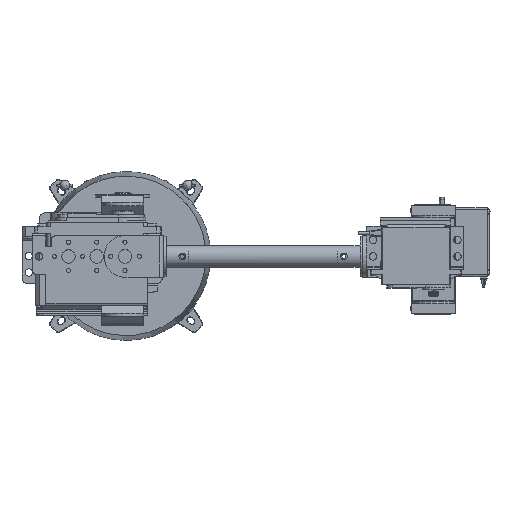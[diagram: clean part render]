
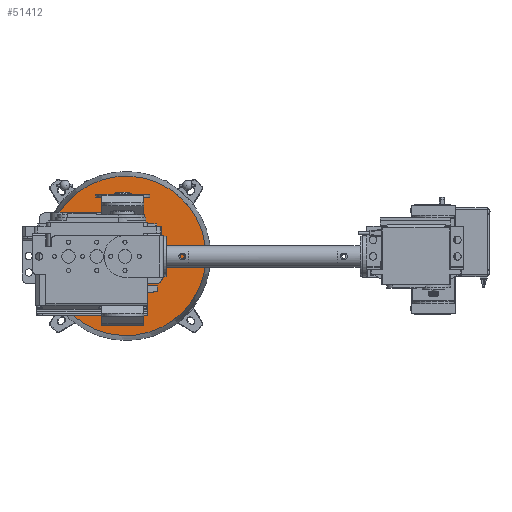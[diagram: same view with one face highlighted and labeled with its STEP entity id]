
A CAD part, top view. The second image highlights one B-rep face of the part: STEP entity #51412.
In plain terms, the highlighted planar face has unit normal (0, 0, 1) as drawn and (0, -1, 0) by its records, which use the part's own axes.
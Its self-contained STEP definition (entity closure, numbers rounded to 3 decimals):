
#8347=PLANE('',#54464);
#11911=ORIENTED_EDGE('',*,*,#22601,.T.);
#11912=ORIENTED_EDGE('',*,*,#22602,.T.);
#11913=ORIENTED_EDGE('',*,*,#22603,.T.);
#11914=ORIENTED_EDGE('',*,*,#22604,.T.);
#11915=ORIENTED_EDGE('',*,*,#22605,.T.);
#11916=ORIENTED_EDGE('',*,*,#22606,.T.);
#11917=ORIENTED_EDGE('',*,*,#22607,.T.);
#11918=ORIENTED_EDGE('',*,*,#22608,.T.);
#11919=ORIENTED_EDGE('',*,*,#22609,.T.);
#11920=ORIENTED_EDGE('',*,*,#22610,.T.);
#11921=ORIENTED_EDGE('',*,*,#22611,.T.);
#11922=ORIENTED_EDGE('',*,*,#22612,.T.);
#11923=ORIENTED_EDGE('',*,*,#22582,.T.);
#11924=ORIENTED_EDGE('',*,*,#22600,.F.);
#22582=EDGE_CURVE('',#28051,#28051,#31681,.T.);
#22600=EDGE_CURVE('',#28069,#28069,#31699,.T.);
#22601=EDGE_CURVE('',#28070,#28070,#31700,.T.);
#22602=EDGE_CURVE('',#28071,#28071,#31701,.T.);
#22603=EDGE_CURVE('',#28072,#28072,#31702,.T.);
#22604=EDGE_CURVE('',#28073,#28073,#31703,.T.);
#22605=EDGE_CURVE('',#28074,#28074,#31704,.T.);
#22606=EDGE_CURVE('',#28075,#28075,#31705,.T.);
#22607=EDGE_CURVE('',#28076,#28076,#31706,.T.);
#22608=EDGE_CURVE('',#28077,#28077,#31707,.T.);
#22609=EDGE_CURVE('',#28078,#28078,#31708,.T.);
#22610=EDGE_CURVE('',#28079,#28079,#31709,.T.);
#22611=EDGE_CURVE('',#28080,#28080,#31710,.T.);
#22612=EDGE_CURVE('',#28081,#28081,#31711,.T.);
#28051=VERTEX_POINT('',#74064);
#28069=VERTEX_POINT('',#74103);
#28070=VERTEX_POINT('',#74106);
#28071=VERTEX_POINT('',#74108);
#28072=VERTEX_POINT('',#74110);
#28073=VERTEX_POINT('',#74112);
#28074=VERTEX_POINT('',#74114);
#28075=VERTEX_POINT('',#74116);
#28076=VERTEX_POINT('',#74118);
#28077=VERTEX_POINT('',#74120);
#28078=VERTEX_POINT('',#74122);
#28079=VERTEX_POINT('',#74124);
#28080=VERTEX_POINT('',#74126);
#28081=VERTEX_POINT('',#74128);
#31681=CIRCLE('',#54442,1.181);
#31699=CIRCLE('',#54463,46.99);
#31700=CIRCLE('',#54465,1.194);
#31701=CIRCLE('',#54466,1.588);
#31702=CIRCLE('',#54467,1.194);
#31703=CIRCLE('',#54468,1.194);
#31704=CIRCLE('',#54469,1.588);
#31705=CIRCLE('',#54470,1.194);
#31706=CIRCLE('',#54471,1.194);
#31707=CIRCLE('',#54472,1.588);
#31708=CIRCLE('',#54473,1.194);
#31709=CIRCLE('',#54474,1.194);
#31710=CIRCLE('',#54475,1.588);
#31711=CIRCLE('',#54476,1.194);
#33766=EDGE_LOOP('',(#11911));
#33767=EDGE_LOOP('',(#11912));
#33768=EDGE_LOOP('',(#11913));
#33769=EDGE_LOOP('',(#11914));
#33770=EDGE_LOOP('',(#11915));
#33771=EDGE_LOOP('',(#11916));
#33772=EDGE_LOOP('',(#11917));
#33773=EDGE_LOOP('',(#11918));
#33774=EDGE_LOOP('',(#11919));
#33775=EDGE_LOOP('',(#11920));
#33776=EDGE_LOOP('',(#11921));
#33777=EDGE_LOOP('',(#11922));
#33778=EDGE_LOOP('',(#11923));
#33779=EDGE_LOOP('',(#11924));
#37009=FACE_BOUND('',#33766,.T.);
#37010=FACE_BOUND('',#33767,.T.);
#37011=FACE_BOUND('',#33768,.T.);
#37012=FACE_BOUND('',#33769,.T.);
#37013=FACE_BOUND('',#33770,.T.);
#37014=FACE_BOUND('',#33771,.T.);
#37015=FACE_BOUND('',#33772,.T.);
#37016=FACE_BOUND('',#33773,.T.);
#37017=FACE_BOUND('',#33774,.T.);
#37018=FACE_BOUND('',#33775,.T.);
#37019=FACE_BOUND('',#33776,.T.);
#37020=FACE_BOUND('',#33777,.T.);
#37021=FACE_BOUND('',#33778,.T.);
#37022=FACE_BOUND('',#33779,.T.);
#51412=ADVANCED_FACE('',(#37009,#37010,#37011,#37012,#37013,#37014,#37015,
#37016,#37017,#37018,#37019,#37020,#37021,#37022),#8347,.F.);
#54442=AXIS2_PLACEMENT_3D('',#74063,#60495,#60496);
#54463=AXIS2_PLACEMENT_3D('',#74102,#60537,#60538);
#54464=AXIS2_PLACEMENT_3D('',#74104,#60539,#60540);
#54465=AXIS2_PLACEMENT_3D('',#74105,#60541,#60542);
#54466=AXIS2_PLACEMENT_3D('',#74107,#60543,#60544);
#54467=AXIS2_PLACEMENT_3D('',#74109,#60545,#60546);
#54468=AXIS2_PLACEMENT_3D('',#74111,#60547,#60548);
#54469=AXIS2_PLACEMENT_3D('',#74113,#60549,#60550);
#54470=AXIS2_PLACEMENT_3D('',#74115,#60551,#60552);
#54471=AXIS2_PLACEMENT_3D('',#74117,#60553,#60554);
#54472=AXIS2_PLACEMENT_3D('',#74119,#60555,#60556);
#54473=AXIS2_PLACEMENT_3D('',#74121,#60557,#60558);
#54474=AXIS2_PLACEMENT_3D('',#74123,#60559,#60560);
#54475=AXIS2_PLACEMENT_3D('',#74125,#60561,#60562);
#54476=AXIS2_PLACEMENT_3D('',#74127,#60563,#60564);
#60495=DIRECTION('',(0.,1.,0.));
#60496=DIRECTION('',(0.,0.,1.));
#60537=DIRECTION('',(0.,1.,0.));
#60538=DIRECTION('',(0.,0.,1.));
#60539=DIRECTION('',(0.,1.,0.));
#60540=DIRECTION('',(0.,0.,1.));
#60541=DIRECTION('',(0.,1.,0.));
#60542=DIRECTION('',(-1.,0.,0.));
#60543=DIRECTION('',(0.,1.,0.));
#60544=DIRECTION('',(-1.,0.,0.));
#60545=DIRECTION('',(0.,1.,0.));
#60546=DIRECTION('',(-1.,0.,0.));
#60547=DIRECTION('',(0.,1.,0.));
#60548=DIRECTION('',(0.,0.,-1.));
#60549=DIRECTION('',(0.,1.,0.));
#60550=DIRECTION('',(0.,0.,-1.));
#60551=DIRECTION('',(0.,1.,0.));
#60552=DIRECTION('',(0.,0.,-1.));
#60553=DIRECTION('',(0.,1.,0.));
#60554=DIRECTION('',(1.,0.,0.));
#60555=DIRECTION('',(0.,1.,0.));
#60556=DIRECTION('',(1.,0.,0.));
#60557=DIRECTION('',(0.,1.,0.));
#60558=DIRECTION('',(1.,0.,0.));
#60559=DIRECTION('',(0.,1.,0.));
#60560=DIRECTION('',(0.,0.,1.));
#60561=DIRECTION('',(0.,1.,0.));
#60562=DIRECTION('',(0.,0.,1.));
#60563=DIRECTION('',(0.,1.,0.));
#60564=DIRECTION('',(0.,0.,1.));
#74063=CARTESIAN_POINT('',(0.,0.,0.));
#74064=CARTESIAN_POINT('',(0.,0.,1.181));
#74102=CARTESIAN_POINT('',(0.,0.,0.));
#74103=CARTESIAN_POINT('',(0.,0.,46.99));
#74104=CARTESIAN_POINT('',(0.,0.,0.));
#74105=CARTESIAN_POINT('',(-31.059,0.,0.));
#74106=CARTESIAN_POINT('',(-32.253,0.,0.));
#74107=CARTESIAN_POINT('',(-16.594,0.,0.));
#74108=CARTESIAN_POINT('',(-18.181,0.,0.));
#74109=CARTESIAN_POINT('',(-8.428,0.,0.));
#74110=CARTESIAN_POINT('',(-9.622,0.,0.));
#74111=CARTESIAN_POINT('',(0.,0.,-31.059));
#74112=CARTESIAN_POINT('',(0.,0.,-32.253));
#74113=CARTESIAN_POINT('',(0.,0.,-16.594));
#74114=CARTESIAN_POINT('',(0.,0.,-18.181));
#74115=CARTESIAN_POINT('',(0.,0.,-8.428));
#74116=CARTESIAN_POINT('',(0.,0.,-9.622));
#74117=CARTESIAN_POINT('',(31.059,0.,0.));
#74118=CARTESIAN_POINT('',(32.253,0.,0.));
#74119=CARTESIAN_POINT('',(16.594,0.,0.));
#74120=CARTESIAN_POINT('',(18.181,0.,0.));
#74121=CARTESIAN_POINT('',(8.428,0.,0.));
#74122=CARTESIAN_POINT('',(9.622,0.,0.));
#74123=CARTESIAN_POINT('',(0.,0.,31.059));
#74124=CARTESIAN_POINT('',(0.,0.,32.253));
#74125=CARTESIAN_POINT('',(0.,0.,16.594));
#74126=CARTESIAN_POINT('',(0.,0.,18.181));
#74127=CARTESIAN_POINT('',(0.,0.,8.428));
#74128=CARTESIAN_POINT('',(0.,0.,9.622));
